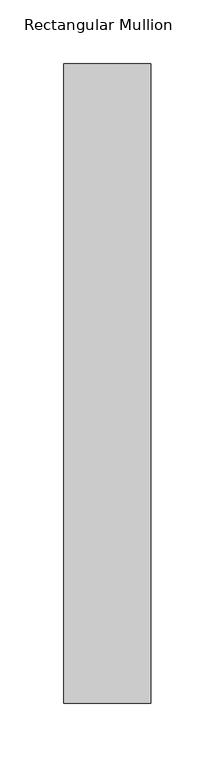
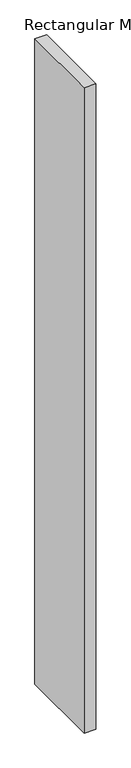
"""IFC4 building model written with IfcOpenShell, lengths in millimetres: member geometry, Rectangular Mullion : DucoSun Cubic Design louvre 500."""

import ifcopenshell
import ifcopenshell.guid

model = None  # the IFC model being written
_history = None  # IfcOwnerHistory: only IFC2X3 demands one
_inside = {}  # id of a spatial element -> (the spatial element, [elements in it])
_under = {}  # id of a project, library or spatial element -> (it, [spatial elements below it])
_declared = {}  # id of a project -> (the project, [libraries it declares])
_typed = {}  # id of a type object -> (the type object, [elements of that type])
_made_of = {}  # id of a material, layer set ... -> (it, [elements and type objects made of it])


def new_model(schema):
    """Start an empty IFC model of exactly this schema.

    Asked for "IFC4X3", IfcOpenShell would pick the latest addendum, in which some entities
    have other attributes; the version numbers below select the first issue.
    IFC2X3 requires an IfcOwnerHistory on every rooted entity: one is made here for all.
    """
    global model, _history
    if schema == "IFC4X3":
        model = ifcopenshell.file(schema_version=(4, 3, 0, 0))
    else:
        model = ifcopenshell.file(schema=schema)
    _inside.clear()
    _under.clear()
    _declared.clear()
    _typed.clear()
    _made_of.clear()
    _history = None
    if model.schema == "IFC2X3":
        org = make("IfcOrganization", Name="unknown")
        user = make(
            "IfcPersonAndOrganization",
            ThePerson=make("IfcPerson", FamilyName="unknown"),
            TheOrganization=org,
        )
        app = make(
            "IfcApplication",
            ApplicationDeveloper=org,
            Version="unknown",
            ApplicationFullName="unknown",
            ApplicationIdentifier="unknown",
        )
        _history = make(
            "IfcOwnerHistory",
            OwningUser=user,
            OwningApplication=app,
            ChangeAction="ADDED",
            CreationDate=0,
        )
    return model


def make(cls, **values):
    """One entity of the class cls with the attributes given. An attribute that is None is left unset."""
    return model.create_entity(
        cls, **{name: value for name, value in values.items() if value is not None}
    )


def rooted(cls, **values):
    """An entity with a GlobalId (a new one), such as an element, a storey or a relation."""
    return make(cls, GlobalId=ifcopenshell.guid.new(), OwnerHistory=_history, **values)


def si_unit(unit_type, name, prefix=None):
    """IfcSIUnit, for example si_unit("LENGTHUNIT", "METRE", prefix="MILLI")."""
    return make("IfcSIUnit", UnitType=unit_type, Prefix=prefix, Name=name)


def assignment(units):
    """IfcUnitAssignment: the units of a project."""
    return None if units is None else make("IfcUnitAssignment", Units=units)


def point(xyz):
    """IfcCartesianPoint."""
    return None if xyz is None else make("IfcCartesianPoint", Coordinates=xyz)


def direction(xyz):
    """IfcDirection."""
    return None if xyz is None else make("IfcDirection", DirectionRatios=xyz)


def frame(location, z_axis=None, x_axis=None):
    """IfcAxis2Placement3D, a coordinate frame: its origin and axes. An axis left out is left unset."""
    return make(
        "IfcAxis2Placement3D",
        Location=point(location),
        Axis=direction(z_axis),
        RefDirection=direction(x_axis),
    )


def origin():
    """The frame at (0, 0, 0) with its axes left unset."""
    return frame((0.0, 0.0, 0.0))


def place(relative_to, where):
    """IfcLocalPlacement: puts the frame where relative to a parent placement (None: the world)."""
    return make(
        "IfcLocalPlacement", PlacementRelTo=relative_to, RelativePlacement=where
    )


def context(
    kind, dimensions, precision=None, world=None, true_north=None, identifier=None
):
    """IfcGeometricRepresentationContext, for example the 3D "Model" context."""
    return make(
        "IfcGeometricRepresentationContext",
        ContextIdentifier=identifier,
        ContextType=kind,
        CoordinateSpaceDimension=dimensions,
        Precision=precision,
        WorldCoordinateSystem=world,
        TrueNorth=true_north,
    )


def project(units=None, contexts=None):
    """IfcProject with its units and contexts."""
    return rooted(
        "IfcProject",
        Name="project",
        RepresentationContexts=contexts,
        UnitsInContext=assignment(units),
    )


def spatial(cls, under=None, at=None, **own):
    """A site, building, storey or space (cls), placed at a placement, below another one or the project."""
    s = rooted(cls, ObjectPlacement=at, **own)
    if under is not None:
        _under.setdefault(under.id(), (under, []))[1].append(s)
    return s


def polyline(points):
    """IfcPolyline through the points."""
    return make("IfcPolyline", Points=[point(p) for p in points])


def outline(outer, holes=None, kind="AREA"):
    """IfcArbitraryClosedProfileDef: a profile drawn as a closed curve; with holes, ...WithVoids."""
    if holes is None:
        return make("IfcArbitraryClosedProfileDef", ProfileType=kind, OuterCurve=outer)
    return make(
        "IfcArbitraryProfileDefWithVoids",
        ProfileType=kind,
        OuterCurve=outer,
        InnerCurves=holes,
    )


def extrude(swept, where, along, depth):
    """IfcExtrudedAreaSolid: the profile swept, set in the frame where, extruded along a direction by depth."""
    return make(
        "IfcExtrudedAreaSolid",
        SweptArea=swept,
        Position=where,
        ExtrudedDirection=direction(along),
        Depth=depth,
    )


def shape(context_of_items, identifier, shape_type, items):
    """IfcShapeRepresentation: the items that make up one representation, for example the "Body"."""
    return make(
        "IfcShapeRepresentation",
        ContextOfItems=context_of_items,
        RepresentationIdentifier=identifier,
        RepresentationType=shape_type,
        Items=items,
    )


def source(mapping_origin, context_of_items, identifier, shape_type, items):
    """IfcRepresentationMap: a shape defined once, which mapped items show again and again."""
    return make(
        "IfcRepresentationMap",
        MappingOrigin=mapping_origin,
        MappedRepresentation=shape(context_of_items, identifier, shape_type, items),
    )


def transform(
    local_origin,
    x_axis=None,
    y_axis=None,
    z_axis=None,
    scale=None,
    scale2=None,
    scale3=None,
    uniform=True,
):
    """IfcCartesianTransformationOperator3D, or its non-uniform kind. x_axis, y_axis, z_axis: its Axis1, 2, 3."""
    if uniform:
        return make(
            "IfcCartesianTransformationOperator3D",
            Axis1=direction(x_axis),
            Axis2=direction(y_axis),
            LocalOrigin=point(local_origin),
            Scale=scale,
            Axis3=direction(z_axis),
        )
    return make(
        "IfcCartesianTransformationOperator3DnonUniform",
        Axis1=direction(x_axis),
        Axis2=direction(y_axis),
        LocalOrigin=point(local_origin),
        Scale=scale,
        Axis3=direction(z_axis),
        Scale2=scale2,
        Scale3=scale3,
    )


def mapped(mapping_source, mapping_target):
    """IfcMappedItem: shows the shape of a source again, moved by a transform."""
    return make(
        "IfcMappedItem", MappingSource=mapping_source, MappingTarget=mapping_target
    )


def made_of(thing, what):
    """Note that an element or type object is made of a material, layer set ...; save() writes the relation."""
    if what is not None:
        _made_of.setdefault(what.id(), (what, []))[1].append(thing)
    return thing


def element(
    cls,
    number,
    at=None,
    inside=None,
    cuts=None,
    type_object=None,
    material=None,
    context=None,
    identifier="Body",
    shape_type=None,
    held_by="IfcProductDefinitionShape",
    body=None,
    shapes=None,
    **own,
):
    """One element of the class cls, such as IfcWall. Its Tag is "e" and its number.

    at: its placement. inside: the storey or other place that contains it. cuts: it is an
    opening in that element (IfcRelVoidsElement). A single representation is given by context,
    identifier, shape_type and body (its items); several are given by shapes. held_by: the class
    of the entity that holds the representations. save() writes the other relations.
    """
    e = rooted(cls, Tag="e%d" % number, ObjectPlacement=at, **own)
    if body is not None:
        shapes = [shape(context, identifier, shape_type, body)]
    if shapes is not None:
        e.Representation = make(held_by, Representations=shapes)
    if inside is not None:
        _inside.setdefault(inside.id(), (inside, []))[1].append(e)
    if cuts is not None:
        rooted(
            "IfcRelVoidsElement", RelatingBuildingElement=cuts, RelatedOpeningElement=e
        )
    if type_object is not None:
        _typed.setdefault(type_object.id(), (type_object, []))[1].append(e)
    return made_of(e, material)


def aggregate(whole, parts):
    """IfcRelAggregates: a whole, such as a stair, and the parts it consists of."""
    return rooted("IfcRelAggregates", RelatingObject=whole, RelatedObjects=parts)


def save(model, path):
    """Write the relations noted so far, then the file.

    IfcRelAggregates (storeys below a building ...), IfcRelContainedInSpatialStructure (elements
    in a storey), IfcRelDefinesByType, IfcRelAssociatesMaterial and IfcRelDeclares: one each for
    every whole, place, type object, material and project.
    """
    for whole, parts in _under.values():
        aggregate(whole, parts)
    for where, things in _inside.values():
        rooted(
            "IfcRelContainedInSpatialStructure",
            RelatedElements=things,
            RelatingStructure=where,
        )
    for kind, things in _typed.values():
        rooted("IfcRelDefinesByType", RelatedObjects=things, RelatingType=kind)
    for what, things in _made_of.values():
        rooted("IfcRelAssociatesMaterial", RelatedObjects=things, RelatingMaterial=what)
    for by, libraries in _declared.values():
        rooted("IfcRelDeclares", RelatingContext=by, RelatedDefinitions=libraries)
    model.write(path)


def rectangular_mullion_6e218a77(model_context):
    return source(origin(), model_context, "Body", "SweptSolid", [
        extrude(outline(polyline([(34.0, -500.0), (-34.0, -500.0), (-34.0, 0.0), (34.0, 0.0), (34.0, -500.0)])), frame((0.0, 0.0, -4000.0), z_axis=(0.0, 0.0, 1.0), x_axis=(1.0, 0.0, 0.0)), (0.0, 0.0, 1.0), 4000.0),
    ])


if __name__ == "__main__":
    model = new_model("IFC4")
    model_context = context("Model", 3, world=origin())
    ifc_project = project(units=[si_unit("LENGTHUNIT", "METRE", prefix="MILLI")], contexts=[model_context])
    site = spatial("IfcSite", under=ifc_project)
    building = spatial("IfcBuilding", under=site)
    placement = place(None, origin())
    rectangular_mullion_shape = rectangular_mullion_6e218a77(model_context)
    element("IfcMember", 1, ObjectType="Rectangular Mullion : DucoSun Cubic Design louvre 500", at=placement, inside=building, context=model_context, shape_type="MappedRepresentation", body=[
        mapped(rectangular_mullion_shape, transform((0.0, 0.0, 0.0), x_axis=(1.0, 0.0, 0.0), y_axis=(0.0, 1.0, 0.0), z_axis=(0.0, 0.0, 1.0))),
    ])
    save(model, "model.ifc")
